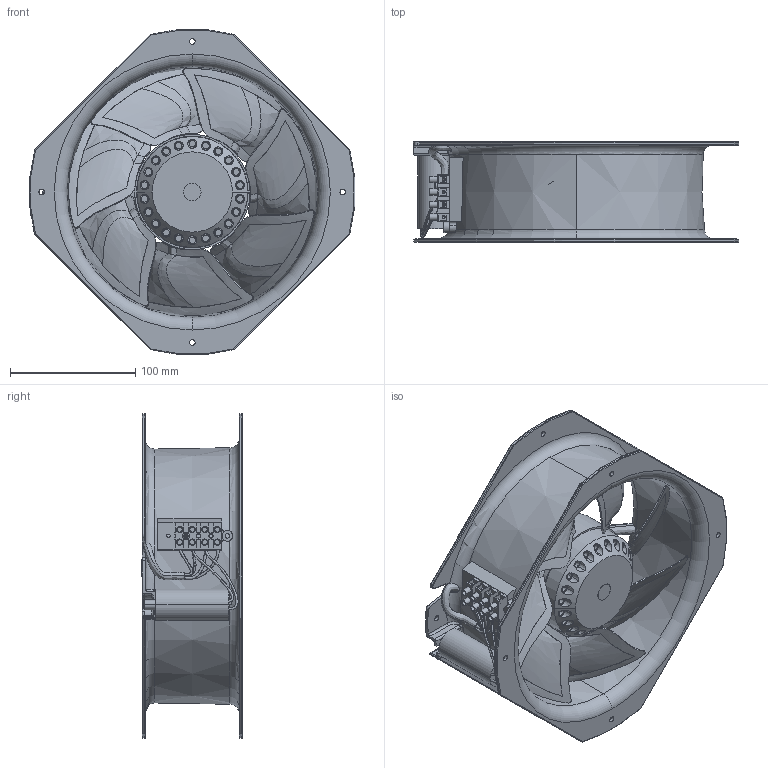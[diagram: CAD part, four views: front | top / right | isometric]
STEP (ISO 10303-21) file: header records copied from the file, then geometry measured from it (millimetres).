
FILE_DESCRIPTION((''),'2;1');
FILE_NAME('W2E200-HK38-01','2008-08-26T',('tbfluhrk'),('ebm-papst Mulfingen GmbH & Co. KG'),'PRO/ENGINEER BY PARAMETRIC TECHNOLOGY CORPORATION, 2007460','PRO/ENGINEER BY PARAMETRIC TECHNOLOGY CORPORATION, 2007460','');
FILE_SCHEMA(('AUTOMOTIVE_DESIGN_CC2 { 1 2 10303 214 -1 1 5 2 }'));
Products named in the file (1): W2E200-HK38-01
Bounding box: 259.48 x 80.4 x 259.03 mm (x, y, z)
Surface area: 281375.3 mm2 (no closed solid volume)
Topology: 0 solids, 58 shells, 764 faces, 2458 edges, 1746 vertices
Faces by surface type: plane 222, cylinder 213, bspline 155, cone 77, torus 48, extrusion 46, sphere 3
Entity records: 67547 total; most frequent: CARTESIAN_POINT 42621, ORIENTED_EDGE 3969, DIRECTION 3413, EDGE_CURVE 2446, VERTEX_POINT 1740, AXIS2_PLACEMENT_3D 1243, B_SPLINE_CURVE_WITH_KNOTS 928, VECTOR 927
